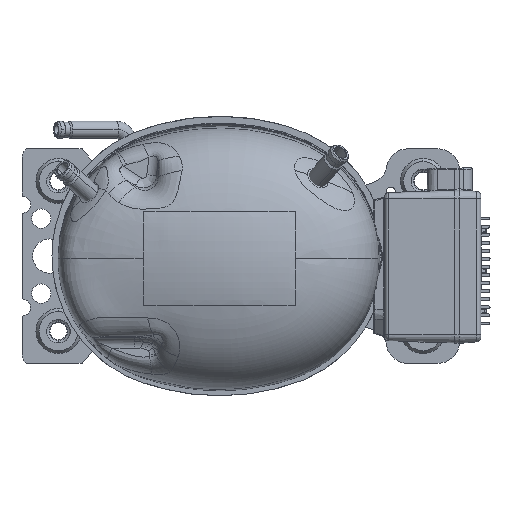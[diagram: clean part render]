
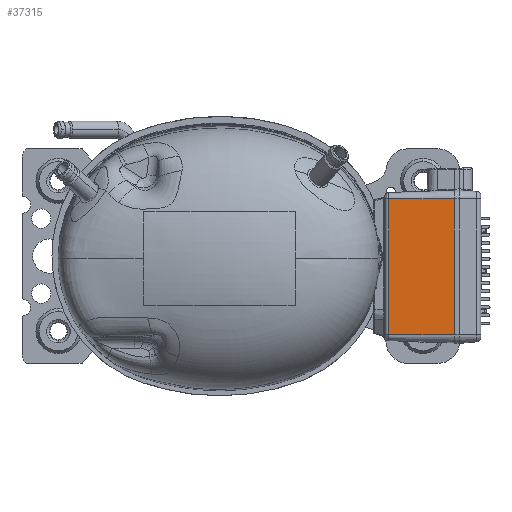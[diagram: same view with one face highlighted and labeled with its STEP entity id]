
A CAD part, left-side view. The second image highlights one B-rep face of the part: STEP entity #37315.
In plain terms, the highlighted planar face has unit normal (-0.999, 0.035, 0).
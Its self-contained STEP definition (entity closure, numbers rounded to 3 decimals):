
#539=DIRECTION('',(0.,0.,1.));
#540=VECTOR('',#539,63.3);
#541=CARTESIAN_POINT('',(-51.995,33.07,-31.65));
#542=LINE('',#541,#540);
#13188=DIRECTION('',(0.,0.,1.));
#13189=VECTOR('',#13188,63.3);
#13190=CARTESIAN_POINT('',(-53.063,2.5,-31.65));
#13191=LINE('',#13190,#13189);
#13192=DIRECTION('',(0.035,0.999,0.));
#13193=VECTOR('',#13192,30.588);
#13194=CARTESIAN_POINT('',(-53.063,2.5,-31.65));
#13195=LINE('',#13194,#13193);
#13196=DIRECTION('',(0.035,0.999,0.));
#13197=VECTOR('',#13196,30.588);
#13198=CARTESIAN_POINT('',(-53.063,2.5,31.65));
#13199=LINE('',#13198,#13197);
#13651=CARTESIAN_POINT('',(-53.063,2.5,31.65));
#13653=VERTEX_POINT('',#13651);
#13665=CARTESIAN_POINT('',(-53.063,2.5,-31.65));
#13666=VERTEX_POINT('',#13665);
#13691=CARTESIAN_POINT('',(-51.995,33.07,-31.65));
#13692=VERTEX_POINT('',#13691);
#13695=CARTESIAN_POINT('',(-51.995,33.07,31.65));
#13696=VERTEX_POINT('',#13695);
#37303=CARTESIAN_POINT('',(-53.15,0.,-34.242));
#37304=DIRECTION('',(-0.999,0.035,0.));
#37305=DIRECTION('',(0.,0.,1.));
#37306=AXIS2_PLACEMENT_3D('',#37303,#37304,#37305);
#37307=PLANE('',#37306);
#37308=ORIENTED_EDGE('',*,*,#19732,.F.);
#37309=ORIENTED_EDGE('',*,*,#37298,.T.);
#37310=ORIENTED_EDGE('',*,*,#17781,.T.);
#37312=ORIENTED_EDGE('',*,*,#37311,.F.);
#37313=EDGE_LOOP('',(#37308,#37309,#37310,#37312));
#37314=FACE_OUTER_BOUND('',#37313,.F.);
#37315=ADVANCED_FACE('',(#37314),#37307,.T.);
#17781=EDGE_CURVE('',#13692,#13696,#542,.T.);
#19732=EDGE_CURVE('',#13666,#13653,#13191,.T.);
#37298=EDGE_CURVE('',#13666,#13692,#13195,.T.);
#37311=EDGE_CURVE('',#13653,#13696,#13199,.T.);
